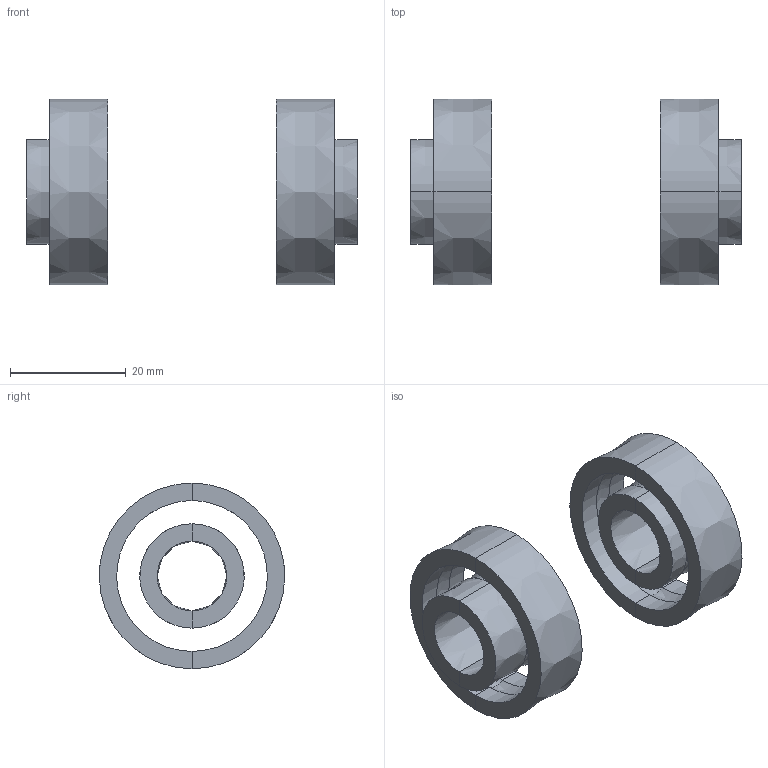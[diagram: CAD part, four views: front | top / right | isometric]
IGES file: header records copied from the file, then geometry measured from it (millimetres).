
Start section: JAMA-IS VERSION  1.0
Global section: file name: E:\tools-models\その他メーカー2\INOAC車輪\7月\HP-100WJ\HP-100WJ-20.igs; native system: CAM-TOOL; preprocessor: C3out Version 11.1.1.50212 (2015/02/12); author: NONE; organization: NONE; date: 200704.165215; units: millimetre
Bounding box: 57 x 32 x 32 mm (x, y, z)
Surface area: 8001.8 mm2 (no closed solid volume)
Topology: 0 solids, 0 shells, 48 faces, 198 edges, 204 vertices
Faces by surface type: bspline 48
